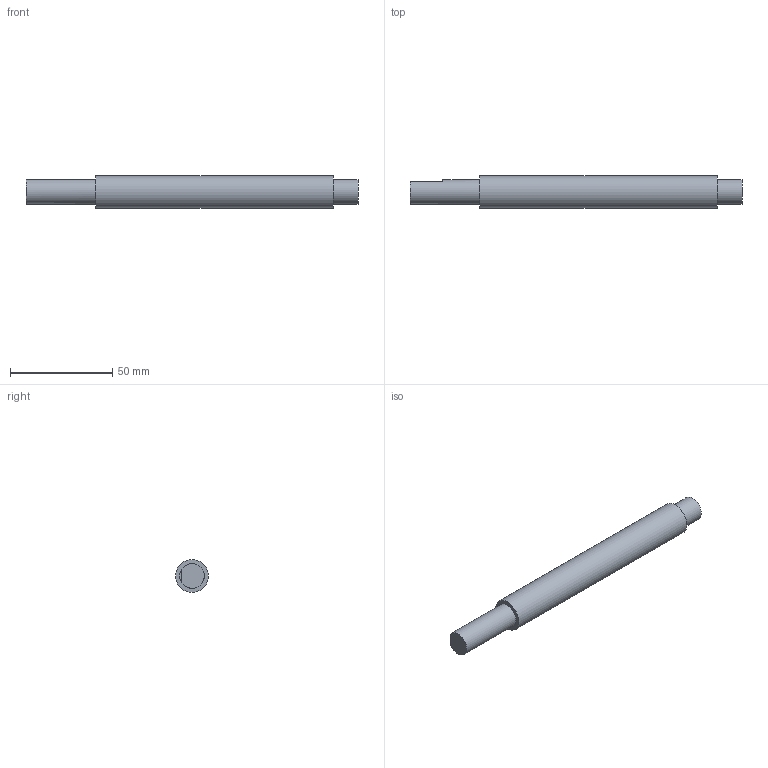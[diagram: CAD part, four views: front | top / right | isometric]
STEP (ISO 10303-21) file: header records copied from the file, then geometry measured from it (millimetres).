
FILE_DESCRIPTION(('FreeCAD Model'),'2;1');
FILE_NAME('Open CASCADE Shape Model','2026-11-20T03:22:07',('FreeCAD'),( 'FreeCAD'),'Open CASCADE STEP processor 7.8','FreeCAD','Unknown');
FILE_SCHEMA(('AUTOMOTIVE_DESIGN { 1 0 10303 214 1 1 1 1 }'));
Length unit declared in the file: millimetre
Products named in the file (1): Open CASCADE STEP translator 7.8 2
Bounding box: 162 x 16 x 16 mm (x, y, z)
Volume: 28453.6 mm3; surface area: 7960.8 mm2
Topology: 1 solids, 1 shells, 9 faces, 15 edges, 10 vertices
Faces by surface type: plane 6, cylinder 3
Full cylindrical faces by diameter (mm): 12 x2, 16 x1
Entity records: 226 total; most frequent: DIRECTION 42, CARTESIAN_POINT 36, ORIENTED_EDGE 30, AXIS2_PLACEMENT_3D 18, EDGE_CURVE 15, FACE_BOUND 11, EDGE_LOOP 11, VERTEX_POINT 10
